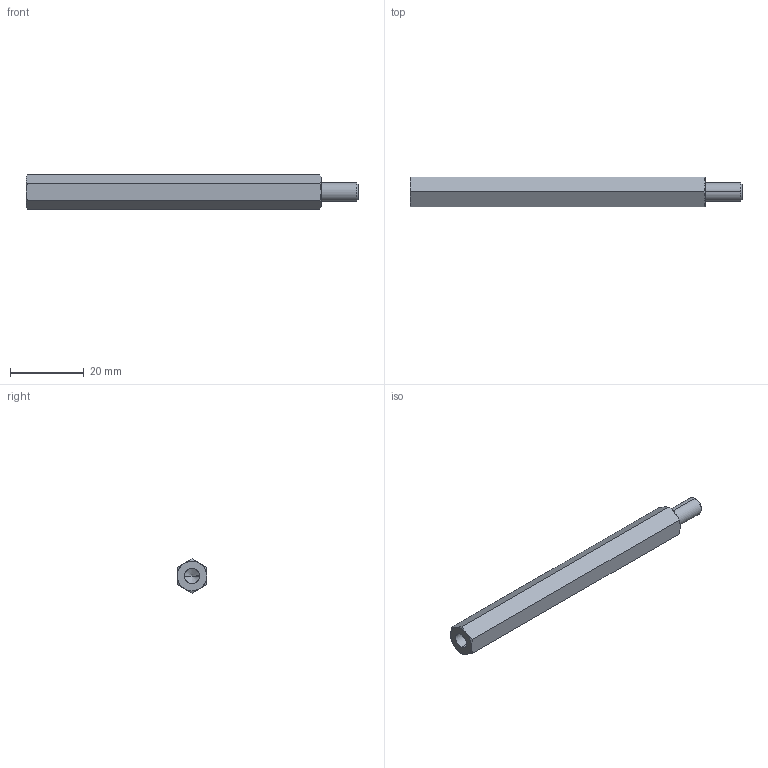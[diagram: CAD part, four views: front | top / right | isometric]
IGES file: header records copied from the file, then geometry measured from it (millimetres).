
Start section: SolidWorks IGES file using analytic representation for surfaces
Global section: file name: C:\Users\render1\Desktop\P0185_IGES\P0185.05-80.igs; native system: SolidWorks 2009; preprocessor: SolidWorks 2009; author: render1; date: 130627.112731; units: millimetre
Bounding box: 90 x 8 x 9.24 mm (x, y, z)
Surface area: 2610 mm2 (no closed solid volume)
Topology: 0 solids, 0 shells, 29 faces, 324 edges, 322 vertices
Faces by surface type: revolution 20, bspline 9
